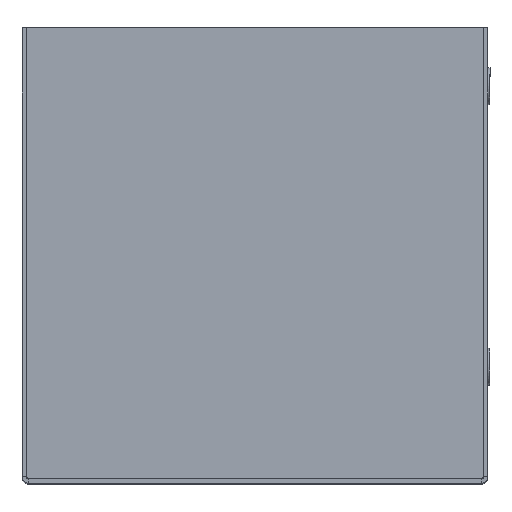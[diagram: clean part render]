
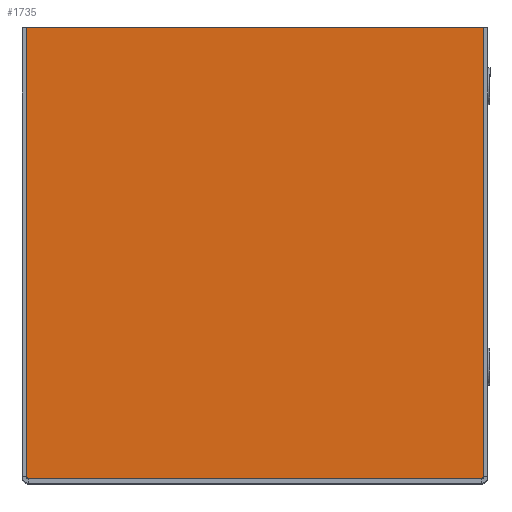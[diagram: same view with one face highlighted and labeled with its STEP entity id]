
A CAD part, top view. The second image highlights one B-rep face of the part: STEP entity #1735.
In plain terms, the highlighted planar face has unit normal (0, 0, 1).
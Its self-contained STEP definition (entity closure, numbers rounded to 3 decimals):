
#175=PLANE('',#2011);
#265=FACE_OUTER_BOUND('',#368,.T.);
#368=EDGE_LOOP('',(#1363,#1364,#1365,#1366,#1367,#1368));
#482=LINE('',#2753,#675);
#488=LINE('',#2769,#681);
#489=LINE('',#2772,#682);
#491=LINE('',#2775,#684);
#675=VECTOR('',#2250,10.);
#681=VECTOR('',#2266,10.);
#682=VECTOR('',#2269,10.);
#684=VECTOR('',#2273,10.);
#838=CIRCLE('',#2001,4.);
#841=CIRCLE('',#2007,4.);
#888=VERTEX_POINT('',#2740);
#889=VERTEX_POINT('',#2741);
#893=VERTEX_POINT('',#2751);
#897=VERTEX_POINT('',#2763);
#898=VERTEX_POINT('',#2767);
#899=VERTEX_POINT('',#2771);
#1056=EDGE_CURVE('',#888,#889,#838,.T.);
#1062=EDGE_CURVE('',#893,#888,#482,.T.);
#1067=EDGE_CURVE('',#897,#893,#841,.T.);
#1070=EDGE_CURVE('',#898,#897,#488,.T.);
#1071=EDGE_CURVE('',#889,#899,#489,.T.);
#1073=EDGE_CURVE('',#899,#898,#491,.T.);
#1363=ORIENTED_EDGE('',*,*,#1056,.F.);
#1364=ORIENTED_EDGE('',*,*,#1062,.F.);
#1365=ORIENTED_EDGE('',*,*,#1067,.F.);
#1366=ORIENTED_EDGE('',*,*,#1070,.F.);
#1367=ORIENTED_EDGE('',*,*,#1073,.F.);
#1368=ORIENTED_EDGE('',*,*,#1071,.F.);
#1735=ADVANCED_FACE('',(#265),#175,.T.);
#2001=AXIS2_PLACEMENT_3D('',#2742,#2240,#2241);
#2007=AXIS2_PLACEMENT_3D('',#2764,#2260,#2261);
#2011=AXIS2_PLACEMENT_3D('',#2776,#2274,#2275);
#2240=DIRECTION('center_axis',(0.,0.,-1.));
#2241=DIRECTION('ref_axis',(-0.707,-0.707,0.));
#2250=DIRECTION('',(-1.,0.,0.));
#2260=DIRECTION('center_axis',(0.,0.,-1.));
#2261=DIRECTION('ref_axis',(0.707,-0.707,0.));
#2266=DIRECTION('',(0.,-1.,0.));
#2269=DIRECTION('',(0.,1.,0.));
#2273=DIRECTION('',(1.,0.,0.));
#2274=DIRECTION('center_axis',(0.,0.,1.));
#2275=DIRECTION('ref_axis',(1.,0.,0.));
#2740=CARTESIAN_POINT('',(-212.,-213.,4.));
#2741=CARTESIAN_POINT('',(-216.,-209.,4.));
#2742=CARTESIAN_POINT('Origin',(-212.,-209.,4.));
#2751=CARTESIAN_POINT('',(212.,-213.,4.));
#2753=CARTESIAN_POINT('',(-216.,-213.,4.));
#2763=CARTESIAN_POINT('',(216.,-209.,4.));
#2764=CARTESIAN_POINT('Origin',(212.,-209.,4.));
#2767=CARTESIAN_POINT('',(216.,213.,4.));
#2769=CARTESIAN_POINT('',(216.,-213.,4.));
#2771=CARTESIAN_POINT('',(-216.,213.,4.));
#2772=CARTESIAN_POINT('',(-216.,213.,4.));
#2775=CARTESIAN_POINT('',(216.,213.,4.));
#2776=CARTESIAN_POINT('Origin',(0.,0.,
4.));
